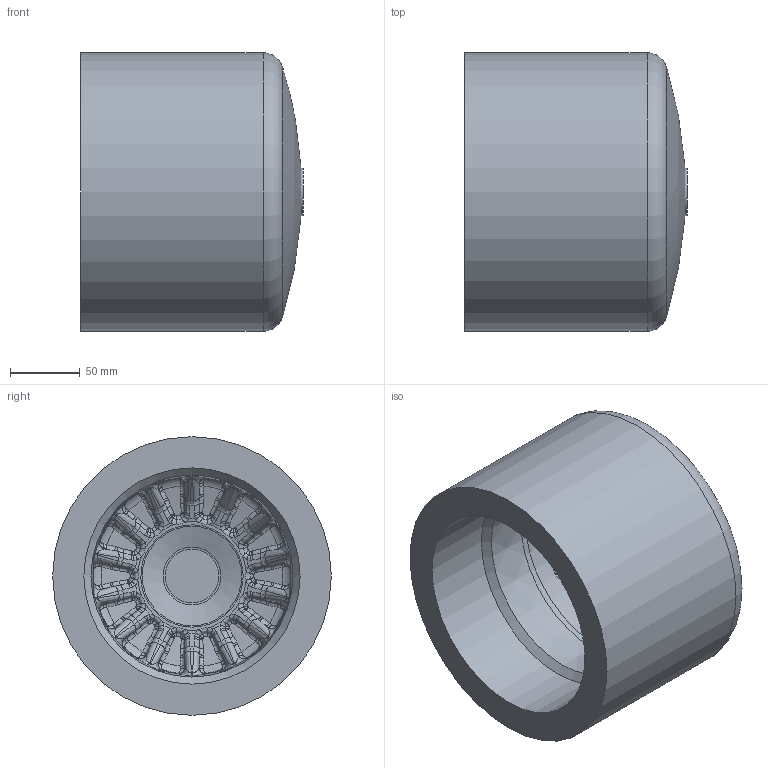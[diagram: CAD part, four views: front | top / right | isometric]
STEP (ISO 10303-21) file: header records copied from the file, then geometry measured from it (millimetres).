
FILE_DESCRIPTION(/* description */ ('Unknown'),/* implementation_level */ '2;1');
FILE_NAME(/* name */ 'CAP200G',/* time_stamp */ '2022-04-02T10:57:19+02:00',/* author */ ('Unknown'),/* organization */ ('Unknown'),/* preprocessor_version */ 'ST-DEVELOPER v18.1',/* originating_system */ 'Solid Edge',/* authorisation */ 'Unknown');
FILE_SCHEMA (('AUTOMOTIVE_DESIGN {1 0 10303 214 3 1 1}'));
Length unit declared in the file: millimetre
Products named in the file (1): CAP200G
Bounding box: 160 x 200 x 200 mm (x, y, z)
Volume: 2562162.1 mm3; surface area: 207145.2 mm2
Topology: 1 solids, 1 shells, 661 faces, 1515 edges, 858 vertices
Faces by surface type: bspline 476, torus 102, cone 33, plane 32, sphere 15, cylinder 3
Full cylindrical faces by diameter (mm): 34 x1, 155.2 x1, 200 x1
Entity records: 23454 total; most frequent: CARTESIAN_POINT 11626, ORIENTED_EDGE 2998, DIRECTION 1830, EDGE_CURVE 1499, AXIS2_PLACEMENT_3D 915, VERTEX_POINT 855, B_SPLINE_CURVE_WITH_KNOTS 770, CIRCLE 701
